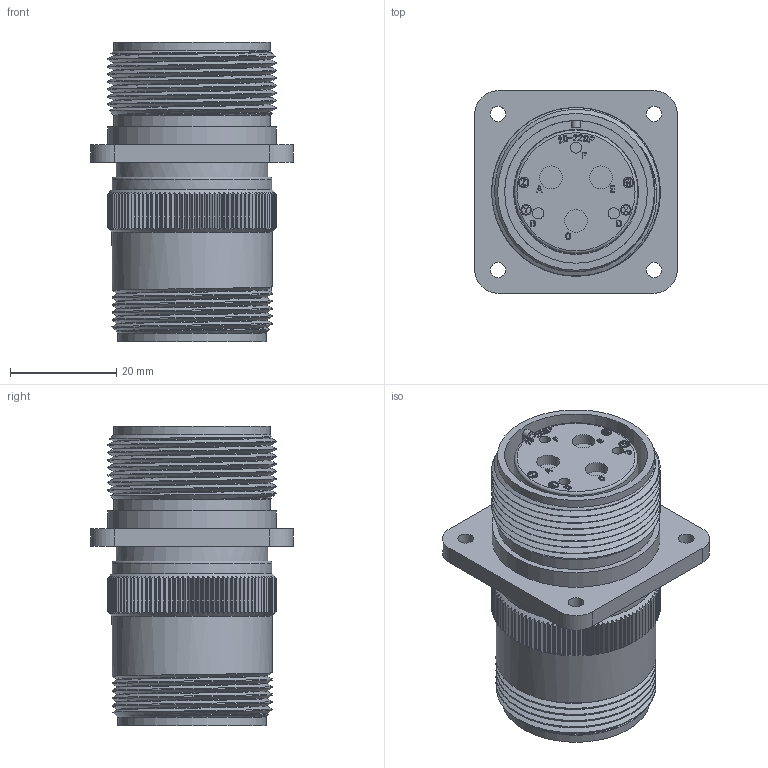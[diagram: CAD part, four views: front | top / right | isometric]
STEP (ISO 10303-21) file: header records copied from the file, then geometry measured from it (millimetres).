
FILE_DESCRIPTION (( 'STEP AP203' ), '1' );
FILE_NAME ('DMS3100A20-22S.STEP', '2022-02-18T09:14:13', ( '' ), ( '' ), 'SwSTEP 2.0', 'SolidWorks 2018', '' );
FILE_SCHEMA (( 'CONFIG_CONTROL_DESIGN' ));
Products named in the file (1): DMS3100A20-22S
Bounding box: 38.1 x 38.1 x 56.3 mm (x, y, z)
Volume: 27762.5 mm3; surface area: 17771.8 mm2
Topology: 1 solids, 1 shells, 1383 faces, 3884 edges, 2582 vertices
Faces by surface type: plane 581, cylinder 519, bspline 270, torus 8, cone 5
Full cylindrical faces by diameter (mm): 1.6 x4, 2 x4, 2.11 x3, 2.93 x4, 4.3 x3, 5.21 x3, 6.25 x3, 20.62 x1, 23.24 x1, 23.55 x1, 24.6 x1, 26.87 x1, 27.92 x1, 28.53 x1, 28.56 x1, 29.52 x2, 30.07 x1, 30.12 x5, 31.71 x1
Entity records: 59804 total; most frequent: CARTESIAN_POINT 28194, ORIENTED_EDGE 7602, DIRECTION 4760, EDGE_CURVE 3801, VERTEX_POINT 2548, VECTOR 1790, LINE 1790, B_SPLINE_CURVE_WITH_KNOTS 1609
